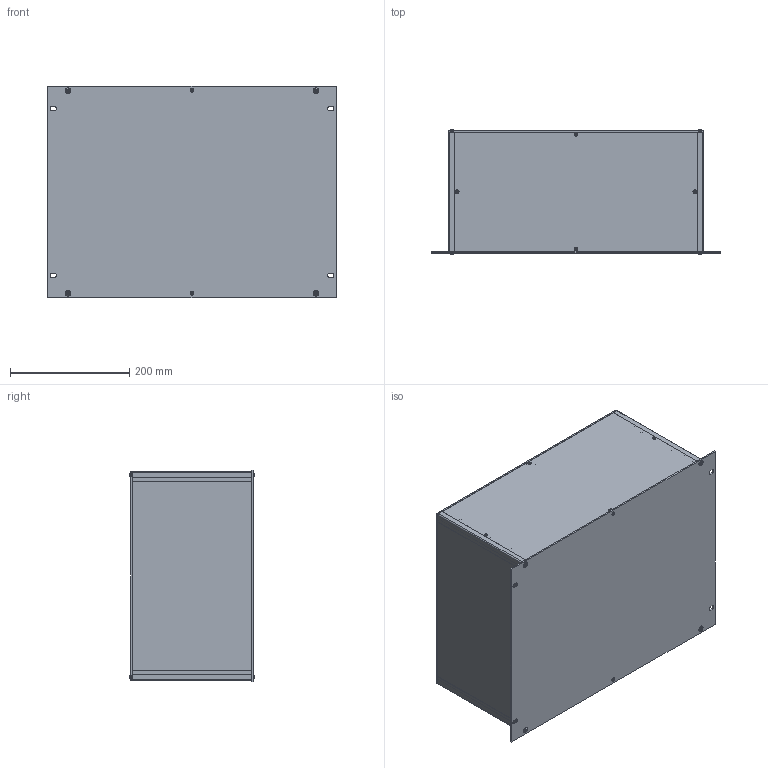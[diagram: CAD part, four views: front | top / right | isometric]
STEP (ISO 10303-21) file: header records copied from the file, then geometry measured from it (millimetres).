
FILE_DESCRIPTION(/* description */ (''),/* implementation_level */ '2;1');
FILE_NAME(/* name */ '//diskstation/Kunden/Gehäuse/Gehäuse/8HE/step/19 Zoll 8HE Rack Gehäuse Tiefe-200.step',/* time_stamp */ '2022-02-17T17:17:45+01:00',/* author */ (''),/* organization */ (''),/* preprocessor_version */ 'ST-DEVELOPER v18.1',/* originating_system */ 'Autodesk Translation Framework v10.10.0.1391',/* authorisation */ '');
FILE_SCHEMA (('AUTOMOTIVE_DESIGN { 1 0 10303 214 3 1 1 }'));
Length unit declared in the file: millimetre
Products named in the file (28): 8HE Gehäuse mit parametern; Gehäuse; Gehäuseprofil 1 unten links; Gehäuseprofil 2 oben rechts; Gehäuseprofil 1 unten rechts; Gehäuseprofil 2 oben links; Rückplatte; Deckel; Seitenteil links; Seitenteil rechts; Bodenplatte; Montageklotz Front/Deckel; Montageklotz Front/Boden; Montageklotz Rück/Deckel; Montageklotz Rück/Boden; Gewindestreifen; Frontplatte; Schrauben M5; Schraube Front; Schraube Front (1); Schraube Front (2); Schraube Front (3); Schraube Rück (1); Schraube Rück; Schraube Rück (2); Schraube Rück (3); Schrauben M3; HI_Senkschraube DIN 965 A v2 M3x5 24677.030.005(High)
Assembly tree (37 placements, depth 3):
  8HE Gehäuse mit parametern
    Gehäuse
      Gehäuseprofil 1 unten links
      Gehäuseprofil 2 oben rechts
      Gehäuseprofil 1 unten rechts
      Gehäuseprofil 2 oben links
      Rückplatte
      Deckel
      Seitenteil links
      Seitenteil rechts
      Bodenplatte
      Montageklotz Front/Deckel
      Montageklotz Front/Boden
      Montageklotz Rück/Deckel
      Montageklotz Rück/Boden
      Gewindestreifen  x2
    Frontplatte
    Schrauben M5
      Schraube Front
      Schraube Front (1)
      Schraube Front (2)
      Schraube Front (3)
      Schraube Rück (1)
      Schraube Rück
      Schraube Rück (2)
      Schraube Rück (3)
    Schrauben M3
      HI_Senkschraube DIN 965 A v2 M3x5 24677.030.005(High)  x10
Bounding box: 483 x 208.2 x 354.8 mm (x, y, z)
Volume: 1578551 mm3; surface area: 1334313.3 mm2
Topology: 34 solids, 34 shells, 834 faces, 2016 edges, 1250 vertices
Faces by surface type: plane 342, cylinder 312, cone 164, torus 8, bspline 8
Full cylindrical faces by diameter (mm): 2.529 x70, 3 x10, 3.2 x10, 4.234 x40, 5 x8, 5.2 x4, 5.3 x8, 5.6 x10, 9.5 x8
Entity records: 16455 total; most frequent: CARTESIAN_POINT 3018, DIRECTION 2750, ORIENTED_EDGE 2430, EDGE_CURVE 1215, AXIS2_PLACEMENT_3D 1030, VERTEX_POINT 758, EDGE_LOOP 701, LINE 690
